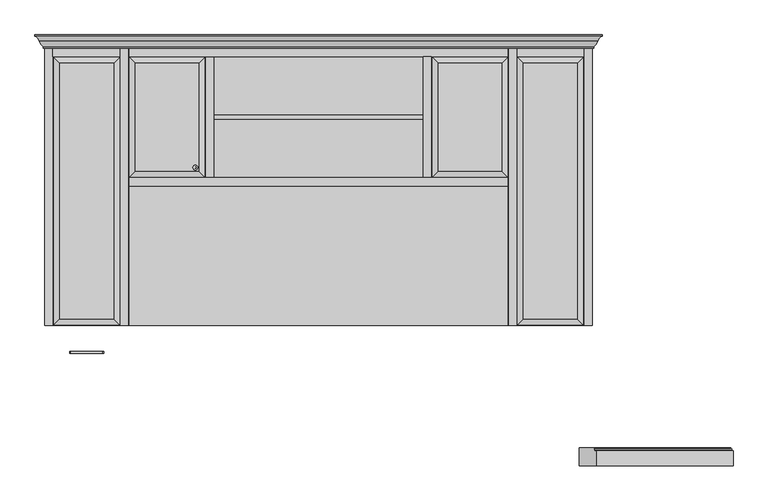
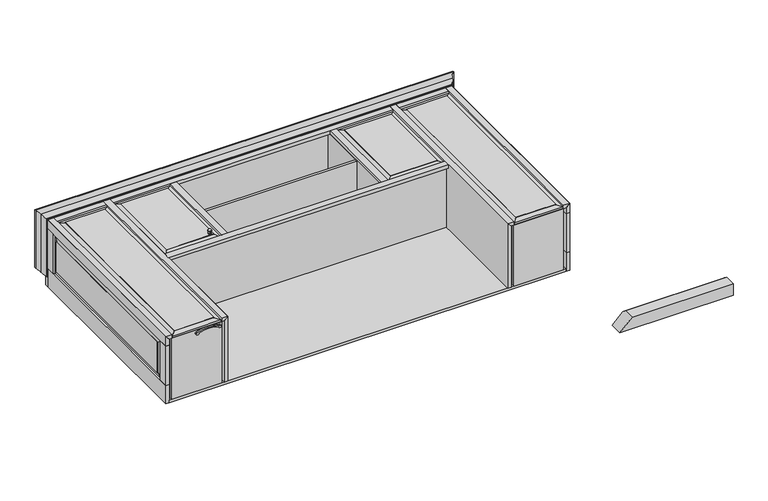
"""IFC4 building model written with IfcOpenShell, lengths in millimetres: proxy geometry, CCN^BRIGHTON_L2-C STEPPED WALL-SOLID ASSEMBLY."""

from ifc_helpers import new_model, si_unit, point, frame, frame_2d, origin, place, context, project, spatial, polyline, circle_curve, ellipse_curve, trimmed, segment, composite_curve, outline, extrude, faceted_brep, source, transform, mapped, element, save
from ifc_brep_helpers import plane_surface, cylinder_surface, revolved_surface, advanced_brep


def generic_models_a693a05c(model_context):
    return source(origin(), model_context, "Body", "SolidModel", [
        advanced_brep(
        [(3037.1111209, -1743.6262284, -1160.0036526), (3037.1111209, -1648.3762284, -1160.0036526), (3837.2111209, -1648.3762284, -1160.0036526), (3837.2111209, -1651.5512284, -1160.0036526), (3843.5611209, -1657.9012284, -1160.0036526), (3849.9111209, -1664.2512284, -1160.0036526), (3849.9111209, -1743.6262284, -1160.0036526), (3126.0111209, -1743.6262284, -1071.1036526), (3849.9111209, -1743.6262284, -1071.1036526), (3126.0111209, -1664.2512284, -1071.1036526), (3119.6611209, -1657.9012284, -1077.4536526), (3113.3111209, -1651.5512284, -1083.8036526), (3113.3111209, -1648.3762284, -1083.8036526), (3837.2111209, -1648.3762284, -1083.8036526), (3837.2111209, -1651.5512284, -1083.8036526), (3843.5611209, -1657.9012284, -1077.4536526), (3849.9111209, -1664.2512284, -1071.1036526)],
        [
            (0, 1),
            (1, 2),
            (2, 3),
            (3, 4, circle_curve(frame((3837.2111209, -1657.9012284, -1160.0036526), z_axis=(0.0, 0.0, -1.0), x_axis=(1.0, 0.0, 0.0)), 6.35)),
            (4, 5, circle_curve(frame((3849.9111209, -1657.9012284, -1160.0036526), z_axis=(0.0, 0.0, 1.0), x_axis=(1.0, -3.0402878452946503e-12, 0.0)), 6.35)),
            (5, 6),
            (6, 0),
            (7, 0),
            (6, 8),
            (8, 7),
            (7, 9),
            (9, 10, ellipse_curve(frame((3126.0111209, -1657.9012284, -1071.1036526), z_axis=(0.7071067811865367, 0.0, -0.7071067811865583), x_axis=(0.7071067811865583, 0.0, 0.7071067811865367)), 8.9802561, 6.35)),
            (10, 11, ellipse_curve(frame((3113.3111209, -1657.9012284, -1083.8036526), z_axis=(-0.7071067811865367, 0.0, 0.7071067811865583), x_axis=(0.7071067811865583, 0.0, 0.7071067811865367)), 8.9802561, 6.35)),
            (11, 12),
            (12, 1),
            (12, 13),
            (13, 2),
            (11, 14),
            (14, 13),
            (10, 15),
            (15, 14, ellipse_curve(frame((3837.2111209, -1657.9012284, -1083.8036526), z_axis=(-0.7071067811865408, 0.0, 0.7071067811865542), x_axis=(0.7071067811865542, 0.0, 0.7071067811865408)), 8.9802561, 6.35)),
            (9, 16),
            (16, 15, ellipse_curve(frame((3849.9111209, -1657.9012284, -1071.1036526), z_axis=(0.7071067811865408, 0.0, -0.7071067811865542), x_axis=(0.7071067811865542, 0.0, 0.7071067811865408)), 8.9802561, 6.35)),
            (8, 16),
            (5, 16),
            (4, 15),
            (3, 14),
        ],
        [
            plane_surface(frame((3849.9111209, -1743.6262284, -1160.0036526), z_axis=(0.0, 0.0, -1.0), x_axis=(-1.0, 0.0, 0.0))),
            plane_surface(frame((3459.3861209, -1743.6262284, -1115.5536526), z_axis=(0.0, -1.0, 0.0), x_axis=(0.0, 0.0, -1.0))),
            plane_surface(frame((3116.4861209, -1743.6262284, -1080.6286526), z_axis=(-0.7071067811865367, 0.0, 0.7071067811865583), x_axis=(0.7071067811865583, 0.0, 0.7071067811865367))),
            plane_surface(frame((3459.3861209, -1648.3762284, -1115.5536526), z_axis=(0.0, 1.0, 0.0), x_axis=(0.0, 0.0, 1.0))),
            plane_surface(frame((3100.6111209, -1651.5512284, -1083.8036526), z_axis=(0.0, 0.0, 1.0), x_axis=(0.0, 1.0, 0.0))),
            cylinder_surface(frame((3100.6111209, -1657.9012284, -1083.8036526), z_axis=(1.0, 0.0, 0.0), x_axis=(0.0, 0.0, -1.0)), 6.35),
            revolved_surface(polyline([(3856.2611208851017, -1657.9012284, -1077.4536526), (3119.6611209, -1657.9012284, -1077.4536526)]), (3087.9111209, -1657.9012284, -1071.1036526), (1.0, 0.0, 0.0)),
            plane_surface(frame((3087.9111209, -1743.6262284, -1071.1036526), z_axis=(0.0, 0.0, 1.0), x_axis=(1.0, 0.0, 0.0))),
            plane_surface(frame((3849.9111209, -1664.2512284, -1071.1036526), z_axis=(1.0, 0.0, 0.0), x_axis=(0.0, -1.0, 0.0))),
            revolved_surface(polyline([(3856.2611208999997, -1657.9012284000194, -1160.0036526), (3856.2611208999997, -1657.9012284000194, -1064.7536526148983)]), (3849.9111209, -1657.9012284, -1071.1036526), (0.0, 0.0, -1.0)),
            cylinder_surface(frame((3837.2111209, -1657.9012284, -1083.8036526), z_axis=(0.0, 0.0, -1.0), x_axis=(1.0, 0.0, 0.0)), 6.35),
            plane_surface(frame((3837.2111209, -1648.3762284, -1083.8036526), z_axis=(1.0, 0.0, 0.0), x_axis=(0.0, -1.0, 0.0))),
        ],
        [
            (0, [[1, 2, 3, 4, 5, 6, 7]]),
            (1, [[8, -7, 9, 10]]),
            (2, [[-8, 11, 12, 13, 14, 15, -1]]),
            (3, [[-15, 16, 17, -2]]),
            (4, [[-14, 18, 19, -16]]),
            (5, [[-13, 20, 21, -18]]),
            (6, [[-12, 22, 23, -20]]),
            (7, [[-11, -10, 24, -22]]),
            (8, [[-24, -9, -6, 25]]),
            (9, [[-23, -25, -5, 26]]),
            (10, [[-21, -26, -4, 27]]),
            (11, [[-19, -27, -3, -17]]),
        ],
    ),
        extrude(outline(composite_curve([segment(polyline([(-594.8536526, 346.9542667), (-594.8536526, 358.2679752)]), True, "CONTINUOUS"), segment(trimmed(circle_curve(frame_2d((-587.8536526, 352.6111209)), 9.0), [point((-594.8536526, 358.2679752))], [point((-587.8536526, 361.6111209))], False, "CARTESIAN"), True, "CONTINUOUS"), segment(trimmed(circle_curve(frame_2d((-750.4231454, 433.6111209)), 177.8), [point((-587.8536526, 361.6111209))], [point((-587.8536526, 505.6111209))], True, "CARTESIAN"), True, "CONTINUOUS"), segment(trimmed(circle_curve(frame_2d((-587.8536526, 514.6111209)), 9.0), [point((-587.8536526, 505.6111209))], [point((-594.8536526, 508.9542667))], False, "CARTESIAN"), True, "CONTINUOUS"), segment(polyline([(-594.8536526, 508.9542667), (-594.8536526, 520.2679752)]), True, "CONTINUOUS"), segment(trimmed(circle_curve(frame_2d((-587.8536526, 514.6111209)), 9.0), [point((-594.8536526, 520.2679752))], [point((-579.2402298, 517.2205169))], False, "CARTESIAN"), True, "CONTINUOUS"), segment(trimmed(circle_curve(frame_2d((-855.2286526, 433.6111209)), 288.375), [point((-579.2402298, 517.2205169))], [point((-579.2402298, 350.0017249))], False, "CARTESIAN"), True, "CONTINUOUS"), segment(trimmed(circle_curve(frame_2d((-587.8536526, 352.6111209)), 9.0), [point((-579.2402298, 350.0017249))], [point((-594.8536526, 346.9542667))], False, "CARTESIAN"), True, "CONTINUOUS")], self_intersect=False)), frame((0.0, -1149.5512284, 0.0), z_axis=(0.0, 1.0, 0.0), x_axis=(0.0, 0.0, 1.0)), (0.0, 0.0, 1.0), 12.0),
        advanced_brep(
        [(1008.2861209, -178.1512284, -631.0036526), (1008.2861209, -178.1512284, -627.0036526), (1008.2861209, -153.1512284, -627.0036526), (1008.2861209, -153.1512284, -631.0036526), (1008.2861209, -172.1512284, -640.075142), (1008.2861209, -176.1512284, -648.0036526), (1008.2861209, -155.1512284, -648.0036526), (1008.2861209, -159.1512284, -640.075142), (1008.2861209, -176.1512284, -652.0036526), (1008.2861209, -155.1512284, -652.0036526)],
        [
            (0, 1),
            (1, 2, circle_curve(frame((1008.2861209, -165.6512284, -627.0036526), z_axis=(0.0, 0.0, -1.0), x_axis=(0.0, -1.0, 0.0)), 12.5)),
            (2, 3),
            (3, 0, circle_curve(frame((1008.2861209, -165.6512284, -631.0036526), z_axis=(0.0, 0.0, 1.0), x_axis=(0.0, -1.0, 0.0)), 12.5)),
            (0, 4, circle_curve(frame((1008.2861209, -182.0088884, -640.075142), z_axis=(-1.0, 0.0, 0.0), x_axis=(0.0, -1.0, 0.0)), 9.85766)),
            (4, 5, circle_curve(frame((1008.2861209, -182.0088884, -640.075142), z_axis=(-1.0, 0.0, 0.0), x_axis=(0.0, -1.0, 0.0)), 9.85766)),
            (5, 6, circle_curve(frame((1008.2861209, -165.6512284, -648.0036526), z_axis=(0.0, 0.0, 1.0), x_axis=(0.0, -1.0, 0.0)), 10.5)),
            (6, 7, circle_curve(frame((1008.2861209, -149.2935683, -640.075142), z_axis=(-1.0, 0.0, 0.0), x_axis=(0.0, 1.0, 0.0)), 9.85766)),
            (7, 3, circle_curve(frame((1008.2861209, -149.2935683, -640.075142), z_axis=(-1.0, 0.0, 0.0), x_axis=(0.0, 1.0, 0.0)), 9.85766)),
            (3, 0, circle_curve(frame((1008.2861209, -165.6512284, -631.0036526), z_axis=(0.0, 0.0, -1.0), x_axis=(0.0, -1.0, 0.0)), 12.5)),
            (8, 5),
            (5, 6, circle_curve(frame((1008.2861209, -165.6512284, -648.0036526), z_axis=(0.0, 0.0, -1.0), x_axis=(0.0, -1.0, 0.0)), 10.5)),
            (6, 9),
            (9, 8, circle_curve(frame((1008.2861209, -165.6512284, -652.0036526), z_axis=(0.0, 0.0, 1.0), x_axis=(0.0, -1.0, 0.0)), 10.5)),
            (9, 8, circle_curve(frame((1008.2861209, -165.6512284, -652.0036526), z_axis=(0.0, 0.0, -1.0), x_axis=(0.0, -1.0, 0.0)), 10.5)),
            (2, 1, circle_curve(frame((1008.2861209, -165.6512284, -627.0036526), z_axis=(0.0, 0.0, -1.0), x_axis=(0.0, -1.0, 0.0)), 12.5)),
        ],
        [
            cylinder_surface(frame((1008.2861209, -165.6512284, -629.0036526), z_axis=(0.0, 0.0, 1.0), x_axis=(0.0, -1.0, 0.0)), 12.5),
            revolved_surface(trimmed(ellipse_curve(frame((1008.2861209, -182.0088884, -640.075142), z_axis=(1.0, 0.0, 0.0), x_axis=(0.0, -1.0, 0.0)), 9.85766, 9.85766), [point((1008.2861209, -176.1512284, -648.0036526))], [point((1008.2861209, -178.1512284, -631.0036526))], True, "CARTESIAN"), (1008.2861209, -165.6512284, -640.075142), (0.0, 0.0, 1.0)),
            cylinder_surface(frame((1008.2861209, -165.6512284, -650.0036526), z_axis=(0.0, 0.0, 1.0), x_axis=(0.0, -1.0, 0.0)), 10.5),
            plane_surface(frame((1008.2861209, -176.1512284, -652.0036526), z_axis=(0.0, 0.0, -1.0), x_axis=(0.0, 1.0, 0.0))),
            revolved_surface(trimmed(ellipse_curve(frame((1008.2861209, -149.2935683, -640.075142), z_axis=(-1.0, 0.0, 0.0), x_axis=(0.0, 1.0, 0.0)), 9.85766, 9.85766), [point((1008.2861209, -155.1512284, -648.0036526))], [point((1008.2861209, -153.1512284, -631.0036526))], True, "CARTESIAN"), (1008.2861209, -165.6512284, -640.075142), (0.0, 0.0, 1.0)),
            plane_surface(frame((1008.2861209, -165.6512284, -627.0036526), z_axis=(0.0, 0.0, 1.0), x_axis=(0.0, -1.0, 0.0))),
        ],
        [
            (0, [[1, 2, 3, 4]]),
            (1, [[5, 6, 7, 8, 9, 10]]),
            (2, [[11, 12, 13, 14]]),
            (3, [[15, -14]]),
            (2, [[-11, -15, -13, -7]]),
            (4, [[-5, -4, -9, -8, -12, -6]]),
            (0, [[-1, -10, -3, 16]]),
            (5, [[-16, -2]]),
        ],
    ),
        extrude(outline(polyline([(2662.4611209, -264.0762284), (655.8611209, -264.0762284), (655.8611209, -219.6262284), (2662.4611209, -219.6262284), (2662.4611209, -264.0762284)])), frame((0.0, 0.0, -677.4036526), z_axis=(0.0, 0.0, 1.0), x_axis=(1.0, 0.0, 0.0)), (0.0, 0.0, 1.0), 25.4),
        faceted_brep([(690.7861209, -184.7012284, -655.1786526), (690.7861209, 386.7987716, -655.1786526), (659.0361209, 418.5487716, -663.6860394), (659.0361209, -216.4512284, -663.6860394), (1059.0861209, 418.5487716, -663.6860394), (1027.3361209, 386.7987716, -655.1786526), (1059.0861209, -216.4512284, -663.6860394), (1027.3361209, -184.7012284, -655.1786526), (659.0361209, -216.4512284, -677.4036526), (1059.0861209, -216.4512284, -677.4036526), (659.0361209, 418.5487716, -677.4036526), (1027.3361209, 386.7987716, -652.0036526), (1027.3361209, -184.7012284, -652.0036526), (690.7861209, -184.7012284, -652.0036526), (690.7861209, 386.7987716, -652.0036526), (1059.0861209, 418.5487716, -677.4036526)], [[[0, 1, 2, 3]], [[4, 2, 1, 5]], [[6, 4, 5, 7]], [[3, 6, 7, 0]], [[6, 3, 8, 9]], [[3, 2, 10, 8]], [[11, 12, 7, 5]], [[12, 13, 0, 7]], [[13, 14, 1, 0]], [[14, 11, 5, 1]], [[2, 4, 15, 10]], [[4, 6, 9, 15]], [[12, 11, 14, 13]], [[9, 8, 10, 15]]]),
        extrude(outline(polyline([(-652.0036526, 611.4111209), (-677.4036526, 611.4111209), (-677.4036526, 630.4611209), (-652.0036526, 655.8611209), (-652.0036526, 611.4111209)])), frame((0.0, -1000.6762284, 0.0), z_axis=(0.0, 1.0, 0.0), x_axis=(0.0, 0.0, 1.0)), (0.0, 0.0, 1.0), 1466.85),
        faceted_brep([(2290.9861209, -184.7012284, -655.1786526), (2290.9861209, 386.7987716, -655.1786526), (2259.2361209, 418.5487716, -663.6860394), (2259.2361209, -216.4512284, -663.6860394), (2659.2861209, 418.5487716, -663.6860394), (2627.5361209, 386.7987716, -655.1786526), (2659.2861209, -216.4512284, -663.6860394), (2627.5361209, -184.7012284, -655.1786526), (2259.2361209, -216.4512284, -677.4036526), (2659.2861209, -216.4512284, -677.4036526), (2259.2361209, 418.5487716, -677.4036526), (2627.5361209, 386.7987716, -652.0036526), (2627.5361209, -184.7012284, -652.0036526), (2290.9861209, -184.7012284, -652.0036526), (2290.9861209, 386.7987716, -652.0036526), (2659.2861209, 418.5487716, -677.4036526)], [[[0, 1, 2, 3]], [[4, 2, 1, 5]], [[6, 4, 5, 7]], [[3, 6, 7, 0]], [[6, 3, 8, 9]], [[3, 2, 10, 8]], [[11, 12, 7, 5]], [[12, 13, 0, 7]], [[13, 14, 1, 0]], [[14, 11, 5, 1]], [[2, 4, 15, 10]], [[4, 6, 9, 15]], [[12, 11, 14, 13]], [[9, 8, 10, 15]]]),
        extrude(outline(polyline([(-652.0036526, 655.8611209), (-677.4036526, 630.4611209), (-1140.9536526, 630.4611209), (-1140.9536526, 655.8611209), (-652.0036526, 655.8611209)])), frame((0.0, -1000.6762284, 0.0), z_axis=(0.0, 1.0, 0.0), x_axis=(0.0, 0.0, 1.0)), (0.0, 0.0, 1.0), 1466.85),
        extrude(outline(polyline([(-652.0036526, 3106.9611209), (-677.4036526, 3081.5611209), (-721.8536526, 3081.5611209), (-721.8536526, 3106.9611209), (-652.0036526, 3106.9611209)])), frame((0.0, -1000.6762284, 0.0), z_axis=(0.0, 1.0, 0.0), x_axis=(0.0, 0.0, 1.0)), (0.0, 0.0, 1.0), 1466.85),
        faceted_brep([(2741.8361209, -965.7512284, -655.1786526), (2741.8361209, 386.7987716, -655.1786526), (2710.0861209, 418.5487716, -663.6860394), (2710.0861209, -997.5012284, -663.6860394), (3059.3361209, 418.5487716, -663.6860394), (3027.5861209, 386.7987716, -655.1786526), (3059.3361209, -997.5012284, -663.6860394), (3027.5861209, -965.7512284, -655.1786526), (2710.0861209, -997.5012284, -677.4036526), (3059.3361209, -997.5012284, -677.4036526), (2710.0861209, 418.5487716, -677.4036526), (3027.5861209, 386.7987716, -652.0036526), (3027.5861209, -965.7512284, -652.0036526), (2741.8361209, -965.7512284, -652.0036526), (2741.8361209, 386.7987716, -652.0036526), (3059.3361209, 418.5487716, -677.4036526)], [[[0, 1, 2, 3]], [[4, 2, 1, 5]], [[6, 4, 5, 7]], [[3, 6, 7, 0]], [[6, 3, 8, 9]], [[3, 2, 10, 8]], [[11, 12, 7, 5]], [[12, 13, 0, 7]], [[13, 14, 1, 0]], [[14, 11, 5, 1]], [[2, 4, 15, 10]], [[4, 6, 9, 15]], [[12, 11, 14, 13]], [[9, 8, 10, 15]]]),
        extrude(outline(polyline([(236.7611209, 466.1737716), (236.7611209, 396.3237716), (211.3611209, 396.3237716), (211.3611209, 466.1737716), (236.7611209, 466.1737716)])), frame((0.0, 0.0, -1020.3036526), z_axis=(0.0, 0.0, 1.0), x_axis=(1.0, 0.0, 0.0)), (0.0, 0.0, 1.0), 298.45),
        faceted_brep([(211.3611209, -895.9012284, -756.7786526), (214.5361209, -895.9012284, -756.7786526), (214.5361209, 361.3987716, -756.7786526), (211.3611209, 361.3987716, -756.7786526), (223.0435078, -927.6512284, -725.0286526), (223.0435078, 393.1487716, -725.0286526), (230.4111209, -927.6512284, -725.0286526), (230.4111209, 393.1487716, -725.0286526), (211.3611209, -895.9012284, -985.3786526), (214.5361209, -895.9012284, -985.3786526), (223.0435078, -927.6512284, -1017.1286526), (230.4111209, -927.6512284, -1017.1286526), (211.3611209, 361.3987716, -985.3786526), (214.5361209, 361.3987716, -985.3786526), (223.0435078, 393.1487716, -1017.1286526), (230.4111209, 393.1487716, -1017.1286526), (230.4111209, 396.3237716, -721.8536526), (230.4111209, 396.3237716, -1020.3036526), (230.4111209, -930.8262284, -1020.3036526), (230.4111209, -930.8262284, -721.8536526), (236.7611209, -930.8262284, -1020.3036526), (236.7611209, -930.8262284, -721.8536526), (236.7611209, 396.3237716, -1020.3036526), (236.7611209, 396.3237716, -721.8536526)], [[[0, 1, 2, 3]], [[1, 4, 5, 2]], [[4, 6, 7, 5]], [[8, 9, 1, 0]], [[9, 10, 4, 1]], [[10, 11, 6, 4]], [[12, 13, 9, 8]], [[13, 14, 10, 9]], [[14, 15, 11, 10]], [[16, 17, 18, 19], [11, 15, 7, 6]], [[2, 5, 14, 13]], [[3, 2, 13, 12]], [[5, 7, 15, 14]], [[19, 18, 20, 21]], [[18, 17, 22, 20]], [[17, 16, 23, 22]], [[16, 19, 21, 23]], [[0, 3, 12, 8]], [[21, 20, 22, 23]]]),
        extrude(outline(polyline([(1061.4673709, 91.5237716), (656.6548709, 91.5237716), (656.6548709, 110.5737716), (1061.4673709, 110.5737716), (1061.4673709, 91.5237716)])), frame((0.0, 0.0, -1140.9536526), z_axis=(0.0, 0.0, 1.0), x_axis=(1.0, 0.0, 0.0)), (0.0, 0.0, 1.0), 457.2),
        extrude(outline(polyline([(2256.8548709, 91.5237716), (2256.8548709, 110.5737716), (2661.6673709, 110.5737716), (2661.6673709, 91.5237716), (2256.8548709, 91.5237716)])), frame((0.0, 0.0, -1140.9536526), z_axis=(0.0, 0.0, 1.0), x_axis=(1.0, 0.0, 0.0)), (0.0, 0.0, 1.0), 457.2),
        extrude(outline(polyline([(2210.8173709, 110.5737716), (2210.8173709, 91.5237716), (1107.5048709, 91.5237716), (1107.5048709, 110.5737716), (2210.8173709, 110.5737716)])), frame((0.0, 0.0, -1140.9536526), z_axis=(0.0, 0.0, 1.0), x_axis=(1.0, 0.0, 0.0)), (0.0, 0.0, 1.0), 457.2),
        extrude(outline(polyline([(-677.4036526, 236.7611209), (-652.0036526, 211.3611209), (-721.8536526, 211.3611209), (-721.8536526, 236.7611209), (-677.4036526, 236.7611209)])), frame((0.0, -1000.6762284, 0.0), z_axis=(0.0, 1.0, 0.0), x_axis=(0.0, 0.0, 1.0)), (0.0, 0.0, 1.0), 1466.85),
        extrude(outline(polyline([(2662.4611209, 466.1737716), (2662.4611209, 447.1237716), (655.8611209, 447.1237716), (655.8611209, 466.1737716), (2662.4611209, 466.1737716)])), frame((0.0, 0.0, -1140.9536526), z_axis=(0.0, 0.0, 1.0), x_axis=(1.0, 0.0, 0.0)), (0.0, 0.0, 1.0), 463.55),
        extrude(outline(polyline([(611.4111209, -981.6262284), (611.4111209, -1000.6762284), (255.8111209, -1000.6762284), (255.8111209, -981.6262284), (611.4111209, -981.6262284)])), frame((0.0, 0.0, -1140.9536526), z_axis=(0.0, 0.0, 1.0), x_axis=(1.0, 0.0, 0.0)), (0.0, 0.0, 1.0), 463.55),
        extrude(outline(polyline([(3081.5611209, -1000.6762284), (3081.5611209, 466.1737716), (3106.9611209, 466.1737716), (3106.9611209, -1000.6762284), (3081.5611209, -1000.6762284)])), frame((0.0, 0.0, -1160.0036526), z_axis=(0.0, 0.0, 1.0), x_axis=(1.0, 0.0, 0.0)), (0.0, 0.0, 1.0), 139.7),
        extrude(outline(polyline([(3061.7173709, 91.5237716), (2707.7048709, 91.5237716), (2707.7048709, 110.5737716), (3061.7173709, 110.5737716), (3061.7173709, 91.5237716)])), frame((0.0, 0.0, -1140.9536526), z_axis=(0.0, 0.0, 1.0), x_axis=(1.0, 0.0, 0.0)), (0.0, 0.0, 1.0), 457.2),
        extrude(outline(polyline([(3061.7173709, -276.7762284), (2707.7048709, -276.7762284), (2707.7048709, -257.7262284), (3061.7173709, -257.7262284), (3061.7173709, -276.7762284)])), frame((0.0, 0.0, -1140.9536526), z_axis=(0.0, 0.0, 1.0), x_axis=(1.0, 0.0, 0.0)), (0.0, 0.0, 1.0), 457.2),
        extrude(outline(polyline([(3061.7173709, -645.0762284), (2707.7048709, -645.0762284), (2707.7048709, -626.0262284), (3061.7173709, -626.0262284), (3061.7173709, -645.0762284)])), frame((0.0, 0.0, -1140.9536526), z_axis=(0.0, 0.0, 1.0), x_axis=(1.0, 0.0, 0.0)), (0.0, 0.0, 1.0), 457.2),
        extrude(outline(polyline([(2256.0611209, -219.6262284), (2211.6111209, -219.6262284), (2211.6111209, 447.1237716), (2256.0611209, 447.1237716), (2256.0611209, -219.6262284)])), frame((0.0, 0.0, -1140.9536526), z_axis=(0.0, 0.0, 1.0), x_axis=(1.0, 0.0, 0.0)), (0.0, 0.0, 1.0), 463.55),
        extrude(outline(polyline([(3062.5111209, -981.6262284), (3062.5111209, -1000.6762284), (2706.9111209, -1000.6762284), (2706.9111209, -981.6262284), (3062.5111209, -981.6262284)])), frame((0.0, 0.0, -1140.9536526), z_axis=(0.0, 0.0, 1.0), x_axis=(1.0, 0.0, 0.0)), (0.0, 0.0, 1.0), 463.55),
        extrude(outline(polyline([(610.6173709, -626.0262284), (610.6173709, -645.0762284), (256.6048709, -645.0762284), (256.6048709, -626.0262284), (610.6173709, -626.0262284)])), frame((0.0, 0.0, -1140.9536526), z_axis=(0.0, 0.0, 1.0), x_axis=(1.0, 0.0, 0.0)), (0.0, 0.0, 1.0), 457.2),
        extrude(outline(polyline([(610.6173709, -257.7262284), (610.6173709, -276.7762284), (256.6048709, -276.7762284), (256.6048709, -257.7262284), (610.6173709, -257.7262284)])), frame((0.0, 0.0, -1140.9536526), z_axis=(0.0, 0.0, 1.0), x_axis=(1.0, 0.0, 0.0)), (0.0, 0.0, 1.0), 457.2),
        extrude(outline(polyline([(610.6173709, 110.5737716), (610.6173709, 91.5237716), (256.6048709, 91.5237716), (256.6048709, 110.5737716), (610.6173709, 110.5737716)])), frame((0.0, 0.0, -1140.9536526), z_axis=(0.0, 0.0, 1.0), x_axis=(1.0, 0.0, 0.0)), (0.0, 0.0, 1.0), 457.2),
        extrude(outline(polyline([(2256.0611209, 421.7237716), (2256.0611209, -219.6262284), (2211.6111209, -219.6262284), (2211.6111209, 421.7237716), (2256.0611209, 421.7237716)])), frame((0.0, 0.0, -677.4036526), z_axis=(0.0, 0.0, 1.0), x_axis=(1.0, 0.0, 0.0)), (0.0, 0.0, 1.0), 25.4),
        extrude(outline(polyline([(3106.9611209, 466.1737716), (211.3611209, 466.1737716), (211.3611209, 491.5737716), (3106.9611209, 491.5737716), (3106.9611209, 466.1737716)])), frame((0.0, 0.0, -1160.0036526), z_axis=(0.0, 0.0, 1.0), x_axis=(1.0, 0.0, 0.0)), (0.0, 0.0, 1.0), 508.0),
        extrude(outline(polyline([(236.7611209, -930.8262284), (236.7611209, -1000.6762284), (211.3611209, -1000.6762284), (211.3611209, -930.8262284), (236.7611209, -930.8262284)])), frame((0.0, 0.0, -1020.3036526), z_axis=(0.0, 0.0, 1.0), x_axis=(1.0, 0.0, 0.0)), (0.0, 0.0, 1.0), 298.45),
        extrude(outline(polyline([(655.8611209, 421.7237716), (655.8611209, 466.1737716), (2662.4611209, 466.1737716), (2662.4611209, 421.7237716), (655.8611209, 421.7237716)])), frame((0.0, 0.0, -677.4036526), z_axis=(0.0, 0.0, 1.0), x_axis=(1.0, 0.0, 0.0)), (0.0, 0.0, 1.0), 25.4),
        faceted_brep([(290.7361209, 386.7987716, -655.1786526), (576.4861209, 386.7987716, -655.1786526), (608.2361209, 418.5487716, -663.6860394), (258.9861209, 418.5487716, -663.6860394), (608.2361209, -997.5012284, -663.6860394), (576.4861209, -965.7512284, -655.1786526), (258.9861209, -997.5012284, -663.6860394), (290.7361209, -965.7512284, -655.1786526), (258.9861209, 418.5487716, -677.4036526), (258.9861209, -997.5012284, -677.4036526), (608.2361209, 418.5487716, -677.4036526), (576.4861209, 386.7987716, -652.0036526), (576.4861209, -965.7512284, -652.0036526), (290.7361209, -965.7512284, -652.0036526), (290.7361209, 386.7987716, -652.0036526), (608.2361209, -997.5012284, -677.4036526)], [[[0, 1, 2, 3]], [[4, 2, 1, 5]], [[6, 4, 5, 7]], [[3, 6, 7, 0]], [[6, 3, 8, 9]], [[3, 2, 10, 8]], [[11, 12, 5, 1]], [[12, 13, 7, 5]], [[13, 14, 0, 7]], [[14, 11, 1, 0]], [[2, 4, 15, 10]], [[4, 6, 9, 15]], [[12, 11, 14, 13]], [[15, 9, 8, 10]]]),
        extrude(outline(polyline([(2662.4611209, -219.6262284), (2662.4611209, -238.6762284), (655.8611209, -238.6762284), (655.8611209, -219.6262284), (2662.4611209, -219.6262284)])), frame((0.0, 0.0, -1140.9536526), z_axis=(0.0, 0.0, 1.0), x_axis=(1.0, 0.0, 0.0)), (0.0, 0.0, 1.0), 463.55),
        faceted_brep([(3106.9611209, -895.9012284, -985.3786526), (3103.7861209, -895.9012284, -985.3786526), (3103.7861209, 361.3987716, -985.3786526), (3106.9611209, 361.3987716, -985.3786526), (3095.278734, -927.6512284, -1017.1286526), (3095.278734, 393.1487716, -1017.1286526), (3087.9111209, -927.6512284, -1017.1286526), (3087.9111209, 393.1487716, -1017.1286526), (3106.9611209, -895.9012284, -756.7786526), (3103.7861209, -895.9012284, -756.7786526), (3095.278734, -927.6512284, -725.0286526), (3087.9111209, -927.6512284, -725.0286526), (3087.9111209, 396.3237716, -1020.3036526), (3087.9111209, 396.3237716, -721.8536526), (3087.9111209, -930.8262284, -721.8536526), (3087.9111209, -930.8262284, -1020.3036526), (3087.9111209, 393.1487716, -725.0286526), (3106.9611209, 361.3987716, -756.7786526), (3103.7861209, 361.3987716, -756.7786526), (3095.278734, 393.1487716, -725.0286526), (3081.5611209, -930.8262284, -1020.3036526), (3081.5611209, 396.3237716, -1020.3036526), (3081.5611209, -930.8262284, -721.8536526), (3081.5611209, 396.3237716, -721.8536526)], [[[0, 1, 2, 3]], [[1, 4, 5, 2]], [[4, 6, 7, 5]], [[8, 9, 1, 0]], [[9, 10, 4, 1]], [[10, 11, 6, 4]], [[12, 13, 14, 15], [11, 16, 7, 6]], [[17, 18, 9, 8]], [[18, 19, 10, 9]], [[19, 16, 11, 10]], [[3, 2, 18, 17]], [[2, 5, 19, 18]], [[5, 7, 16, 19]], [[12, 15, 20, 21]], [[15, 14, 22, 20]], [[14, 13, 23, 22]], [[13, 12, 21, 23]], [[0, 3, 17, 8]], [[20, 22, 23, 21]]]),
        advanced_brep(
        [(205.7985209, 466.1737716, -1084.5910526), (234.9266056, 466.1737716, -1113.7191373), (234.9266056, 466.1737716, -675.5691373), (3083.3956362, 466.1737716, -675.5691373), (3083.3956362, 466.1737716, -1113.7191373), (3112.5237209, 466.1737716, -1084.5910526), (3112.5237209, 466.1737716, -646.4410526), (205.7985209, 466.1737716, -646.4410526), (186.0171091, 536.0237716, -626.6596407), (186.0171091, 536.0237716, -1064.8096407), (3132.3051328, 536.0237716, -626.6596407), (184.647749, 502.1175862, -1063.4402806), (160.5611209, 528.0989716, -1039.3536526), (160.5611209, 536.0237716, -1039.3536526), (205.7985209, 472.9137963, -1084.5910526), (160.5611209, 536.0237716, -601.2036526), (3157.7611209, 536.0237716, -601.2036526), (3157.7611209, 536.0237716, -1039.3536526), (3132.3051328, 536.0237716, -1064.8096407), (160.5611209, 528.0989716, -601.2036526), (184.647749, 502.1175862, -625.2902806), (205.7985209, 472.9137963, -646.4410526), (3157.7611209, 528.0989716, -1039.3536526), (3133.6744929, 502.1175862, -1063.4402806), (3112.5237209, 472.9137963, -1084.5910526), (3112.5237209, 472.9137963, -646.4410526), (3133.6744929, 502.1175862, -625.2902806), (3157.7611209, 528.0989716, -601.2036526)],
        [
            (0, 1),
            (1, 2),
            (2, 3),
            (3, 4),
            (4, 5),
            (5, 6),
            (6, 7),
            (7, 0),
            (8, 2),
            (1, 9),
            (9, 8),
            (10, 3),
            (8, 10),
            (11, 12, ellipse_curve(frame((147.86777, 492.175597, -1026.6603017), z_axis=(0.7071067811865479, 0.0, 0.7071067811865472), x_axis=(0.7071067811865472, 0.0, -0.7071067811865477)), 53.8815367, 38.1)),
            (12, 13),
            (13, 9),
            (0, 14),
            (14, 11, ellipse_curve(frame((233.6877209, 515.3735716, -1112.4802526), z_axis=(-0.7071067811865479, 0.0, -0.7071067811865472), x_axis=(0.7071067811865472, 0.0, -0.7071067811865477)), 71.842049, 50.8)),
            (13, 15),
            (15, 16),
            (16, 17),
            (17, 18),
            (18, 10),
            (12, 19),
            (19, 15),
            (11, 20),
            (20, 19, ellipse_curve(frame((147.86777, 492.175597, -588.5103017), z_axis=(0.7071067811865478, 0.0, 0.7071067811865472), x_axis=(0.7071067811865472, 0.0, -0.7071067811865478)), 53.8815367, 38.1)),
            (14, 21),
            (21, 20, ellipse_curve(frame((233.6877209, 515.3735716, -674.3302526), z_axis=(-0.7071067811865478, 0.0, -0.7071067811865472), x_axis=(0.7071067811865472, 0.0, -0.7071067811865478)), 71.842049, 50.8)),
            (17, 22),
            (22, 23, ellipse_curve(frame((3170.4544718, 492.175597, -1026.6603017), z_axis=(-0.7071067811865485, 0.0, 0.7071067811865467), x_axis=(0.7071067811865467, 0.0, 0.7071067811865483)), 53.8815367, 38.1)),
            (23, 24, ellipse_curve(frame((3084.6345209, 515.3735716, -1112.4802526), z_axis=(0.7071067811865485, 0.0, -0.7071067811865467), x_axis=(0.7071067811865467, 0.0, 0.7071067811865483)), 71.842049, 50.8)),
            (24, 5),
            (4, 18),
            (24, 25),
            (25, 6),
            (23, 26),
            (26, 25, ellipse_curve(frame((3084.6345209, 515.3735716, -674.3302526), z_axis=(0.7071067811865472, 0.0, -0.7071067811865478), x_axis=(0.7071067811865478, 0.0, 0.7071067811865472)), 71.842049, 50.8)),
            (7, 21),
            (26, 20),
            (21, 25),
            (26, 27, ellipse_curve(frame((3170.4544718, 492.175597, -588.5103017), z_axis=(0.7071067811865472, 0.0, -0.7071067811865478), x_axis=(-0.7071067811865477, 0.0, -0.7071067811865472)), 53.8815367, 38.1)),
            (27, 19),
            (22, 27),
            (27, 16),
        ],
        [
            plane_surface(frame((1659.1611209, 466.1737716, -880.6036526), z_axis=(0.0, -1.0, 0.0), x_axis=(0.0, 0.0, -1.0))),
            plane_surface(frame((211.3611209, 499.8287716, -652.0036526), z_axis=(0.8191520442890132, 0.5735764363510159, 0.0), x_axis=(-0.497542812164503, 0.7105647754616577, 0.49754281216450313))),
            plane_surface(frame((3106.9611209, 499.8287716, -652.0036526), z_axis=(0.0, 0.5735764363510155, -0.8191520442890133), x_axis=(0.49754281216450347, 0.7105647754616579, 0.4975428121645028))),
            plane_surface(frame((185.9611209, 513.7987716, -1064.7536526), z_axis=(-0.7071067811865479, 0.0, -0.7071067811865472), x_axis=(-0.7071067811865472, 0.0, 0.7071067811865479))),
            plane_surface(frame((1659.1611209, 536.0237716, -880.6036526), z_axis=(0.0, 1.0, 0.0), x_axis=(0.0, 0.0, 1.0))),
            plane_surface(frame((160.5611209, 491.5737716, -1160.0036526), z_axis=(-1.0, 0.0, 0.0), x_axis=(0.0, 0.0, 1.0))),
            revolved_surface(polyline([(185.96777, 492.175597, -1064.7603016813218), (185.96777, 492.175597, -550.4103017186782)]), (147.86777, 492.175597, -588.5103017), (0.0, 0.0, -1.0)),
            cylinder_surface(frame((233.6877209, 515.3735716, -674.3302526), z_axis=(0.0, 0.0, -1.0), x_axis=(1.0, 0.0, 0.0)), 50.8),
            plane_surface(frame((3132.3611209, 513.7987716, -1064.7536526), z_axis=(0.7071067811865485, 0.0, -0.7071067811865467), x_axis=(-0.7071067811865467, 0.0, -0.7071067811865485))),
            plane_surface(frame((3112.5237209, 472.9137963, -1090.1536526), z_axis=(1.0, 0.0, 0.0), x_axis=(0.0, -1.0, 0.0))),
            cylinder_surface(frame((3084.6345209, 515.3735716, -1090.1536526), z_axis=(0.0, 0.0, 1.0), x_axis=(-0.9653537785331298, 0.2609445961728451, 0.0)), 50.8),
            plane_surface(frame((3106.9611209, 499.8287716, -1090.1536526), z_axis=(-0.8191520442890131, 0.5735764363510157, 0.0), x_axis=(0.5735764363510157, 0.8191520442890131, 0.0))),
            plane_surface(frame((205.7985209, 472.9137963, -646.4410526), z_axis=(-1.0, 0.0, 0.0), x_axis=(0.0, -1.0, 0.0))),
            cylinder_surface(frame((3084.6345209, 515.3735716, -674.3302526), z_axis=(-1.0, 0.0, 0.0), x_axis=(0.0, 0.0, -1.0)), 50.8),
            revolved_surface(polyline([(109.76777001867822, 492.175597, -626.6103017), (3208.554471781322, 492.175597, -626.6103017)]), (3170.4544718, 492.175597, -588.5103017), (-1.0, 0.0, 0.0)),
            plane_surface(frame((3112.5237209, 472.9137963, -646.4410526), z_axis=(0.0, 0.0, 1.0), x_axis=(0.0, -1.0, 0.0))),
            revolved_surface(polyline([(3133.674492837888, 502.11758611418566, -550.4103017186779), (3133.674492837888, 502.11758611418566, -1064.7603016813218)]), (3170.4544718, 492.175597, -1090.1536526), (0.0, 0.0, 1.0000000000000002)),
            plane_surface(frame((160.5611209, 491.5737716, -601.2036526), z_axis=(0.0, 0.0, 1.0), x_axis=(1.0, 0.0, 0.0))),
            plane_surface(frame((3157.7611209, 491.5737716, -601.2036526), z_axis=(1.0, 0.0, 0.0), x_axis=(0.0, 0.0, -1.0))),
        ],
        [
            (0, [[1, 2, 3, 4, 5, 6, 7, 8]]),
            (1, [[9, -2, 10, 11]]),
            (2, [[12, -3, -9, 13]]),
            (3, [[14, 15, 16, -10, -1, 17, 18]]),
            (4, [[-16, 19, 20, 21, 22, 23, -13, -11]]),
            (5, [[-15, 24, 25, -19]]),
            (6, [[-14, 26, 27, -24]]),
            (7, [[-18, 28, 29, -26]]),
            (8, [[-22, 30, 31, 32, 33, -5, 34]]),
            (9, [[-33, 35, 36, -6]]),
            (10, [[-32, 37, 38, -35]]),
            (11, [[-34, -4, -12, -23]]),
            (12, [[-17, -8, 39, -28]]),
            (13, [[-38, 40, -29, 41]]),
            (14, [[42, 43, -27, -40]]),
            (15, [[-36, -41, -39, -7]]),
            (16, [[-31, 44, -42, -37]]),
            (17, [[-43, 45, -20, -25]]),
            (18, [[-30, -21, -45, -44]]),
        ],
    ),
        extrude(outline(polyline([(-677.4036526, 3062.5111209), (-677.4036526, 3081.5611209), (-652.0036526, 3106.9611209), (-652.0036526, 3062.5111209), (-677.4036526, 3062.5111209)])), frame((0.0, -1000.6762284, 0.0), z_axis=(0.0, 1.0, 0.0), x_axis=(0.0, 0.0, 1.0)), (0.0, 0.0, 1.0), 1466.85),
        extrude(outline(polyline([(-677.4036526, 2687.8611209), (-677.4036526, 2706.9111209), (-652.0036526, 2706.9111209), (-652.0036526, 2662.4611209), (-677.4036526, 2687.8611209)])), frame((0.0, -1000.6762284, 0.0), z_axis=(0.0, 1.0, 0.0), x_axis=(0.0, 0.0, 1.0)), (0.0, 0.0, 1.0), 1466.85),
        extrude(outline(polyline([(3081.5611209, -1000.6762284), (3081.5611209, -930.8262284), (3106.9611209, -930.8262284), (3106.9611209, -1000.6762284), (3081.5611209, -1000.6762284)])), frame((0.0, 0.0, -1020.3036526), z_axis=(0.0, 0.0, 1.0), x_axis=(1.0, 0.0, 0.0)), (0.0, 0.0, 1.0), 298.45),
        extrude(outline(polyline([(-677.4036526, 2687.8611209), (-652.0036526, 2662.4611209), (-1140.9536526, 2662.4611209), (-1140.9536526, 2687.8611209), (-677.4036526, 2687.8611209)])), frame((0.0, -1000.6762284, 0.0), z_axis=(0.0, 1.0, 0.0), x_axis=(0.0, 0.0, 1.0)), (0.0, 0.0, 1.0), 1466.85),
        extrude(outline(polyline([(2706.9111209, 421.7237716), (2706.9111209, 466.1737716), (3062.5111209, 466.1737716), (3062.5111209, 421.7237716), (2706.9111209, 421.7237716)])), frame((0.0, 0.0, -677.4036526), z_axis=(0.0, 0.0, 1.0), x_axis=(1.0, 0.0, 0.0)), (0.0, 0.0, 1.0), 25.4),
        extrude(outline(polyline([(1106.7111209, -219.6262284), (1062.2611209, -219.6262284), (1062.2611209, 447.1237716), (1106.7111209, 447.1237716), (1106.7111209, -219.6262284)])), frame((0.0, 0.0, -1140.9536526), z_axis=(0.0, 0.0, 1.0), x_axis=(1.0, 0.0, 0.0)), (0.0, 0.0, 1.0), 463.55),
        extrude(outline(polyline([(3081.5611209, 466.1737716), (3081.5611209, -1000.6762284), (236.7611209, -1000.6762284), (236.7611209, 466.1737716), (3081.5611209, 466.1737716)])), frame((0.0, 0.0, -1160.0036526), z_axis=(0.0, 0.0, 1.0), x_axis=(1.0, 0.0, 0.0)), (0.0, 0.0, 1.0), 19.05),
        extrude(outline(polyline([(236.7611209, 466.1737716), (236.7611209, -1000.6762284), (211.3611209, -1000.6762284), (211.3611209, 466.1737716), (236.7611209, 466.1737716)])), frame((0.0, 0.0, -1160.0036526), z_axis=(0.0, 0.0, 1.0), x_axis=(1.0, 0.0, 0.0)), (0.0, 0.0, 1.0), 139.7),
        extrude(outline(polyline([(1106.7111209, -219.6262284), (1062.2611209, -219.6262284), (1062.2611209, 421.7237716), (1106.7111209, 421.7237716), (1106.7111209, -219.6262284)])), frame((0.0, 0.0, -677.4036526), z_axis=(0.0, 0.0, 1.0), x_axis=(1.0, 0.0, 0.0)), (0.0, 0.0, 1.0), 25.4),
        extrude(outline(polyline([(3081.5611209, 396.3237716), (3081.5611209, 466.1737716), (3106.9611209, 466.1737716), (3106.9611209, 396.3237716), (3081.5611209, 396.3237716)])), frame((0.0, 0.0, -1020.3036526), z_axis=(0.0, 0.0, 1.0), x_axis=(1.0, 0.0, 0.0)), (0.0, 0.0, 1.0), 298.45),
        extrude(outline(polyline([(255.8111209, 421.7237716), (255.8111209, 466.1737716), (611.4111209, 466.1737716), (611.4111209, 421.7237716), (255.8111209, 421.7237716)])), frame((0.0, 0.0, -677.4036526), z_axis=(0.0, 0.0, 1.0), x_axis=(1.0, 0.0, 0.0)), (0.0, 0.0, 1.0), 25.4),
        extrude(outline(polyline([(-677.4036526, 236.7611209), (-677.4036526, 255.8111209), (-652.0036526, 255.8111209), (-652.0036526, 211.3611209), (-677.4036526, 236.7611209)])), frame((0.0, -1000.6762284, 0.0), z_axis=(0.0, 1.0, 0.0), x_axis=(0.0, 0.0, 1.0)), (0.0, 0.0, 1.0), 1466.85),
    ])


if __name__ == "__main__":
    model = new_model("IFC4")
    model_context = context("Model", 3, world=origin())
    ifc_project = project(units=[si_unit("LENGTHUNIT", "METRE", prefix="MILLI")], contexts=[model_context])
    site = spatial("IfcSite", under=ifc_project)
    building = spatial("IfcBuilding", under=site)
    placement = place(None, origin())
    generic_models_shape = generic_models_a693a05c(model_context)
    element("IfcBuildingElementProxy", 1, Name="CCN^BRIGHTON_L2-C STEPPED WALL-SOLID ASSEMBLY", ObjectType="CCN^BRIGHTON_L2-C STEPPED WALL-SOLID ASSEMBLY", at=placement, inside=building, context=model_context, shape_type="MappedRepresentation", body=[
        mapped(generic_models_shape, transform((0.0, 0.0, 0.0), x_axis=(1.0, 0.0, 0.0), y_axis=(0.0, 1.0, 0.0), z_axis=(0.0, 0.0, 1.0))),
    ])
    save(model, "model.ifc")
